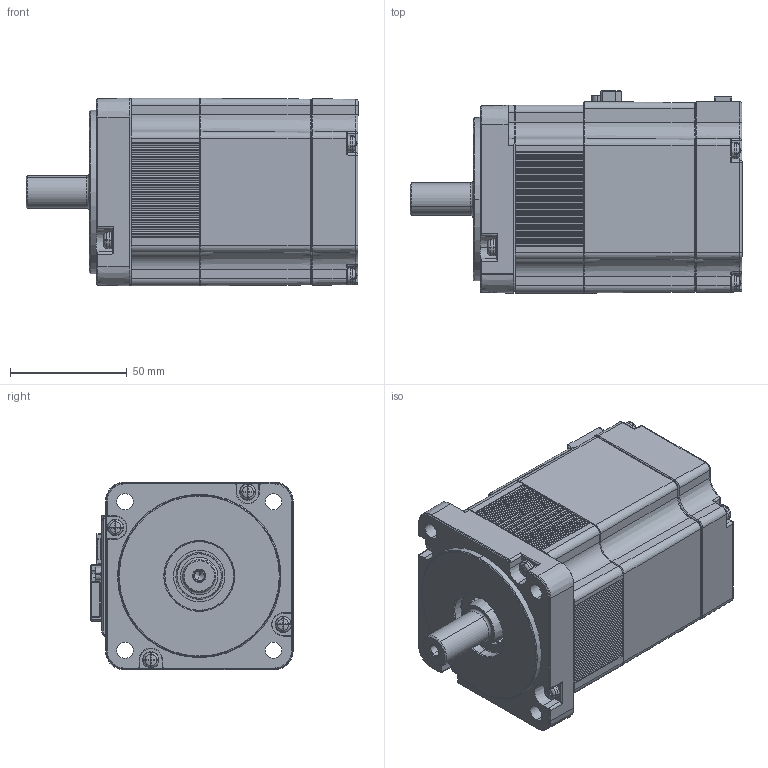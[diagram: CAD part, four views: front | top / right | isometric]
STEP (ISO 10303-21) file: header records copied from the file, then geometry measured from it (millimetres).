
FILE_DESCRIPTION (( 'STEP AP203' ), '1' );
FILE_NAME ('80-400W BRAKE.STEP', '2021-12-28T01:22:13', ( '' ), ( '' ), 'SwSTEP 2.0', 'SolidWorks 2020', '' );
FILE_SCHEMA (( 'CONFIG_CONTROL_DESIGN' ));
Length unit declared in the file: millimetre
Products named in the file (9): 80-400W BRAKE; ENCODER Receptacle; m4x30_ル遽; ∴80 FLANGE_促捞某胶泼 啊傍档_历包己; POWER RECEPTACLE; ﹤80-400W(盪婦撩) FRAME; ﹤80-200,400W BRACKET(BRAKE)_棻檜議蝶た 陛奢紫; ﹤80 ENCODER COVER_棻檜議蝶た 陛奢紫; ﹤80-400W SHAFT (盪婦撩)
Assembly tree (15 placements, depth 2):
  80-400W BRAKE
    ﹤80-400W SHAFT (盪婦撩)
    ﹤80-400W(盪婦撩) FRAME
    ENCODER Receptacle
    POWER RECEPTACLE
    m4x30_ル遽  x8
    ∴80 FLANGE_促捞某胶泼 啊傍档_历包己
    ﹤80-200,400W BRACKET(BRAKE)_棻檜議蝶た 陛奢紫
    ﹤80 ENCODER COVER_棻檜議蝶た 陛奢紫
Bounding box: 142.2 x 86.61 x 80.42 mm (x, y, z)
Volume: 246345.7 mm3; surface area: 111694.5 mm2
Topology: 15 solids, 21 shells, 2373 faces, 6033 edges, 3774 vertices
Faces by surface type: plane 1094, cylinder 662, bspline 260, cone 209, torus 90, sphere 58
Entity records: 71575 total; most frequent: CARTESIAN_POINT 19321, ORIENTED_EDGE 10970, DIRECTION 10376, EDGE_CURVE 5485, AXIS2_PLACEMENT_3D 3604, VERTEX_POINT 3431, VECTOR 3168, LINE 3168
